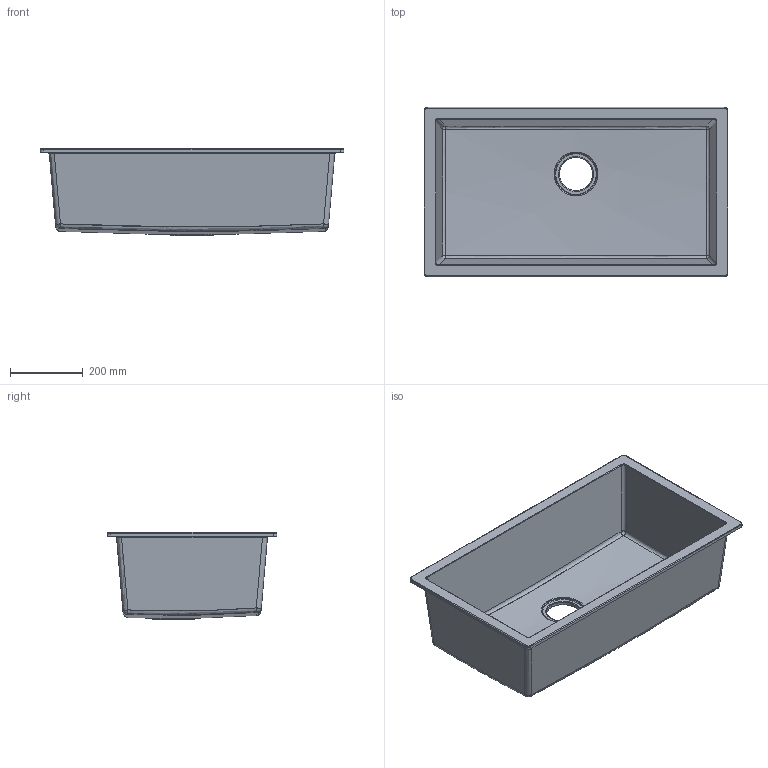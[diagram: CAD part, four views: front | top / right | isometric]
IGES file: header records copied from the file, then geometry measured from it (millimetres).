
Start section: SolidWorks IGES file using analytic representation for surfaces
Global section: file name: W:\mliu8\project\ADHOC-02291\sku_faum3318series_igs\sku_faum3318series_igs.IGS; native system: SolidWorks 2023; preprocessor: SolidWorks 2023; author: mliu8; date: 240730.151612; units: millimetre
Bounding box: 838.2 x 467 x 240 mm (x, y, z)
Surface area: 1689835.2 mm2 (no closed solid volume)
Topology: 0 solids, 0 shells, 92 faces, 1093 edges, 1089 vertices
Faces by surface type: bspline 72, revolution 20
